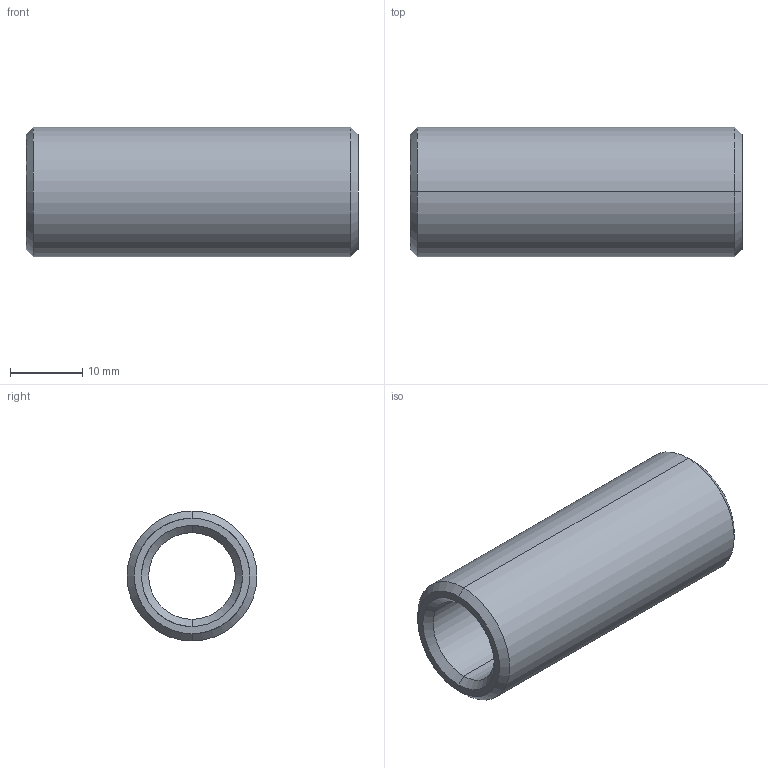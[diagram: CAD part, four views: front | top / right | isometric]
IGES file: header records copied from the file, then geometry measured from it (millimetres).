
Start section: START RECORD GO HERE.
Global section: file name: 352-12X46.igs; native system: DASSAULT SYSTEMES CATIA V5 R20 - www.3ds.com; preprocessor: CATIA Version 5 Release 20 ; author: Utente; organization: NB04-ASUS; date: 20210410.112324; units: millimetre
Bounding box: 46 x 18 x 18 mm (x, y, z)
Surface area: 4512.8 mm2 (no closed solid volume)
Topology: 0 solids, 0 shells, 14 faces, 88 edges, 88 vertices
Faces by surface type: revolution 12, plane 2
